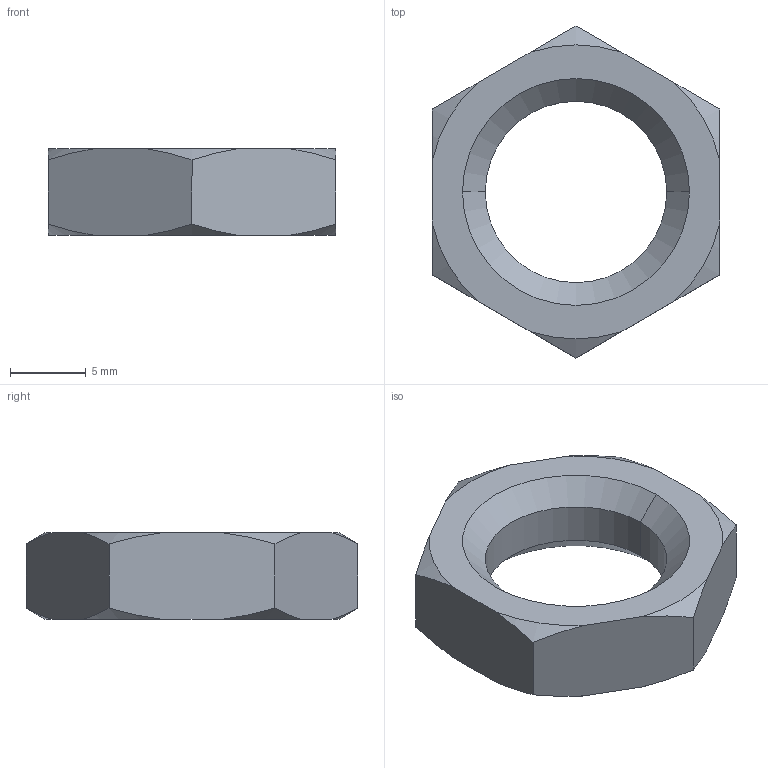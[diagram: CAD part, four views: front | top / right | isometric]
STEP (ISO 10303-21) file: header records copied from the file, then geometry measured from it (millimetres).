
FILE_DESCRIPTION (( 'STEP AP203' ), '1' );
FILE_NAME ('P0306.120-150-A4.step', '2018-12-15T15:00:44', ( '' ), ( '' ), 'SwSTEP 2.0', 'SolidWorks 2017', '' );
FILE_SCHEMA (( 'CONFIG_CONTROL_DESIGN' ));
Length unit declared in the file: millimetre
Products named in the file (1): P0306.120-150-A4
Bounding box: 19 x 21.94 x 5.7 mm (x, y, z)
Volume: 1036.7 mm3; surface area: 909 mm2
Topology: 1 solids, 1 shells, 26 faces, 68 edges, 44 vertices
Faces by surface type: cone 16, plane 8, cylinder 2
Entity records: 937 total; most frequent: CARTESIAN_POINT 243, ORIENTED_EDGE 136, DIRECTION 118, EDGE_CURVE 68, AXIS2_PLACEMENT_3D 47, VERTEX_POINT 44, EDGE_LOOP 28, ADVANCED_FACE 26
